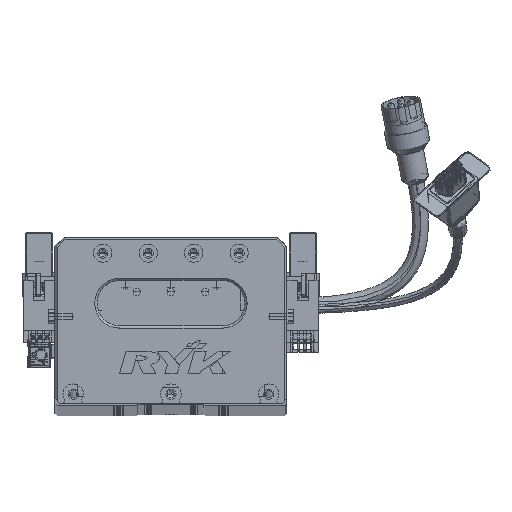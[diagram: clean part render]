
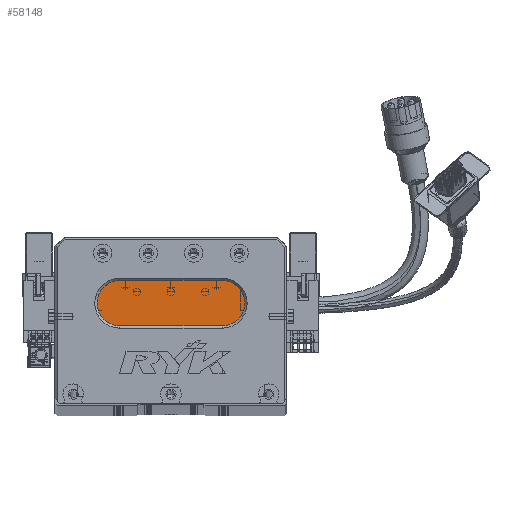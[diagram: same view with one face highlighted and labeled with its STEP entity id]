
A CAD part, top view. The second image highlights one B-rep face of the part: STEP entity #58148.
In plain terms, the highlighted planar face has unit normal (0, 0, 1) as drawn and (0, 0, -1) by its records, which use the part's own axes.
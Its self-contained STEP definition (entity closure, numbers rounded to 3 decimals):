
#1149 = VERTEX_POINT ( 'NONE', #5989 ) ;
#1380 = VECTOR ( 'NONE', #15141, 1000. ) ;
#3014 = CARTESIAN_POINT ( 'NONE',  ( 73.5, 44., 13. ) ) ;
#5089 = AXIS2_PLACEMENT_3D ( 'NONE', #3014, #50032, #69776 ) ;
#5989 = CARTESIAN_POINT ( 'NONE',  ( 73.5, 54., 13. ) ) ;
#6038 = DIRECTION ( 'NONE',  ( -1., 0., 0. ) ) ;
#7154 = CARTESIAN_POINT ( 'NONE',  ( 73.5, 54., 13. ) ) ;
#9711 = AXIS2_PLACEMENT_3D ( 'NONE', #30261, #24701, #10677 ) ;
#10677 = DIRECTION ( 'NONE',  ( -1., 0., 0. ) ) ;
#10718 = ORIENTED_EDGE ( 'NONE', *, *, #43796, .T. ) ;
#11198 = VERTEX_POINT ( 'NONE', #74121 ) ;
#15141 = DIRECTION ( 'NONE',  ( -1., 0., 0. ) ) ;
#20935 = ORIENTED_EDGE ( 'NONE', *, *, #51177, .T. ) ;
#21058 = VECTOR ( 'NONE', #34314, 1000. ) ;
#22491 = DIRECTION ( 'NONE',  ( 0., 0., -1. ) ) ;
#23343 = LINE ( 'NONE', #34697, #1380 ) ;
#23786 = ORIENTED_EDGE ( 'NONE', *, *, #83298, .T. ) ;
#24701 = DIRECTION ( 'NONE',  ( 0., 0., -1. ) ) ;
#27143 = AXIS2_PLACEMENT_3D ( 'NONE', #45802, #33219, #6038 ) ;
#29343 = CARTESIAN_POINT ( 'NONE',  ( 28.5, 34., 13. ) ) ;
#30261 = CARTESIAN_POINT ( 'NONE',  ( 73.5, 44., 13. ) ) ;
#31519 = LINE ( 'NONE', #7154, #21058 ) ;
#32958 = CIRCLE ( 'NONE', #9711, 10. ) ;
#33219 = DIRECTION ( 'NONE',  ( 0., 0., -1. ) ) ;
#33424 = ORIENTED_EDGE ( 'NONE', *, *, #79747, .T. ) ;
#34314 = DIRECTION ( 'NONE',  ( 1., 0., 0. ) ) ;
#34697 = CARTESIAN_POINT ( 'NONE',  ( 73.5, 34., 13. ) ) ;
#42356 = CARTESIAN_POINT ( 'NONE',  ( 28.5, 44., 13. ) ) ;
#43796 = EDGE_CURVE ( 'NONE', #71334, #11198, #54116, .T. ) ;
#44722 = AXIS2_PLACEMENT_3D ( 'NONE', #42356, #22491, #63530 ) ;
#45802 = CARTESIAN_POINT ( 'NONE',  ( 28.5, 44., 13. ) ) ;
#46185 = VERTEX_POINT ( 'NONE', #74888 ) ;
#46945 = ORIENTED_EDGE ( 'NONE', *, *, #84319, .T. ) ;
#47221 = CARTESIAN_POINT ( 'NONE',  ( 73.5, 34., 13. ) ) ;
#47699 = EDGE_LOOP ( 'NONE', ( #23786, #46945, #10718, #33424, #20935 ) ) ;
#50032 = DIRECTION ( 'NONE',  ( 0., 0., -1. ) ) ;
#51177 = EDGE_CURVE ( 'NONE', #46185, #1149, #31519, .T. ) ;
#51700 = CIRCLE ( 'NONE', #44722, 10. ) ;
#54116 = CIRCLE ( 'NONE', #27143, 10. ) ;
#58148 = ADVANCED_FACE ( 'NONE', ( #85743 ), #60836, .T. ) ;
#60836 = PLANE ( 'NONE',  #5089 ) ;
#63530 = DIRECTION ( 'NONE',  ( -1., 0., 0. ) ) ;
#69776 = DIRECTION ( 'NONE',  ( -1., 0., 0. ) ) ;
#71334 = VERTEX_POINT ( 'NONE', #29343 ) ;
#74121 = CARTESIAN_POINT ( 'NONE',  ( 18.5, 44., 13. ) ) ;
#74888 = CARTESIAN_POINT ( 'NONE',  ( 28.5, 54., 13. ) ) ;
#79747 = EDGE_CURVE ( 'NONE', #11198, #46185, #51700, .T. ) ;
#80225 = VERTEX_POINT ( 'NONE', #47221 ) ;
#83298 = EDGE_CURVE ( 'NONE', #1149, #80225, #32958, .T. ) ;
#84319 = EDGE_CURVE ( 'NONE', #80225, #71334, #23343, .T. ) ;
#85743 = FACE_OUTER_BOUND ( 'NONE', #47699, .T. ) ;
